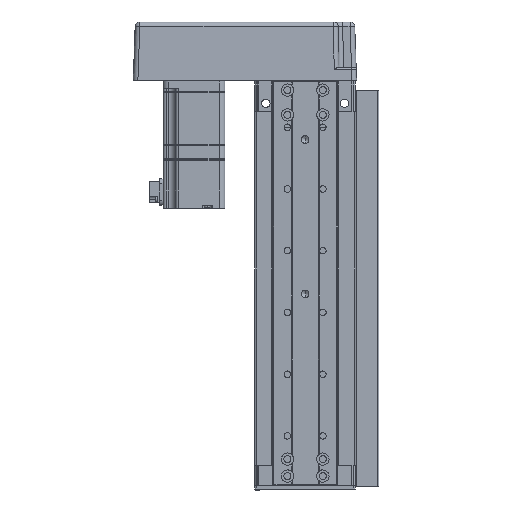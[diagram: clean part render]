
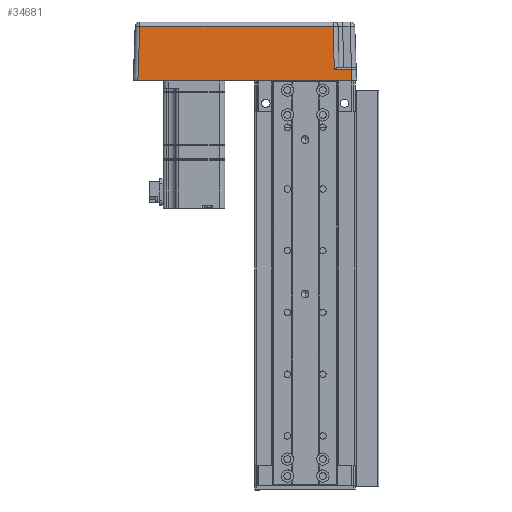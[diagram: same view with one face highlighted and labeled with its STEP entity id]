
A CAD part, front view. The second image highlights one B-rep face of the part: STEP entity #34681.
In plain terms, the highlighted planar face has unit normal (0, -0.999, 0.035).
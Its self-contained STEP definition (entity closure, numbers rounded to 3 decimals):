
#3238 = CARTESIAN_POINT ( 'NONE',  ( -69.347, -92.16, 0. ) ) ;
#3348 = DIRECTION ( 'NONE',  ( 1., 0., 0. ) ) ;
#9726 = VECTOR ( 'NONE', #11734, 1000. ) ;
#9775 = LINE ( 'NONE', #10902, #9791 ) ;
#9791 = VECTOR ( 'NONE', #10881, 1000. ) ;
#9809 = LINE ( 'NONE', #11720, #9726 ) ;
#9836 = LINE ( 'NONE', #10994, #9850 ) ;
#9850 = VECTOR ( 'NONE', #11002, 1000. ) ;
#10881 = DIRECTION ( 'NONE',  ( -0.035, -0.035, -0.999 ) ) ;
#10902 = CARTESIAN_POINT ( 'NONE',  ( -68.115, -90.928, 35.28 ) ) ;
#10994 = CARTESIAN_POINT ( 'NONE',  ( 57.821, -91.896, 7.573 ) ) ;
#11002 = DIRECTION ( 'NONE',  ( -0.017, 0.035, 0.999 ) ) ;
#11019 = CARTESIAN_POINT ( 'NONE',  ( 57.821, -91.896, 7.573 ) ) ;
#11027 = CARTESIAN_POINT ( 'NONE',  ( 61.575, -91.896, 7.573 ) ) ;
#11032 = CARTESIAN_POINT ( 'NONE',  ( 65.329, -91.896, 7.573 ) ) ;
#11034 = CARTESIAN_POINT ( 'NONE',  ( 69.171, -91.984, 5.048 ) ) ;
#11062 = CARTESIAN_POINT ( 'NONE',  ( 69.082, -91.896, 7.573 ) ) ;
#11064 = CARTESIAN_POINT ( 'NONE',  ( 69.082, -91.896, 7.573 ) ) ;
#11068 = CARTESIAN_POINT ( 'NONE',  ( 69.259, -92.072, 2.524 ) ) ;
#11074 = CARTESIAN_POINT ( 'NONE',  ( 69.347, -92.16, 0. ) ) ;
#11720 = CARTESIAN_POINT ( 'NONE',  ( -68.115, -90.928, 35.28 ) ) ;
#11734 = DIRECTION ( 'NONE',  ( 1., 0., 0. ) ) ;
#18125 = FACE_OUTER_BOUND ( 'NONE', #42515, .T. ) ;
#20658 = AXIS2_PLACEMENT_3D ( 'NONE', #23422, #23412, #23502 ) ;
#23308 = PLANE ( 'NONE',  #20658 ) ;
#23412 = DIRECTION ( 'NONE',  ( 0., -0.999, 0.035 ) ) ;
#23422 = CARTESIAN_POINT ( 'NONE',  ( -75.455, -92.16, 0. ) ) ;
#23502 = DIRECTION ( 'NONE',  ( -1., 0., 0. ) ) ;
#26152 = CARTESIAN_POINT ( 'NONE',  ( 69.347, -92.16, 0. ) ) ;
#26188 = CARTESIAN_POINT ( 'NONE',  ( -69.347, -92.16, 0. ) ) ;
#26288 = CARTESIAN_POINT ( 'NONE',  ( 57.821, -91.896, 7.573 ) ) ;
#26290 = CARTESIAN_POINT ( 'NONE',  ( 69.082, -91.896, 7.573 ) ) ;
#26297 = CARTESIAN_POINT ( 'NONE',  ( 57.337, -90.928, 35.28 ) ) ;
#26319 = CARTESIAN_POINT ( 'NONE',  ( -68.115, -90.928, 35.28 ) ) ;
#32411 = EDGE_CURVE ( 'NONE', #50628, #50611, #56048, .T. ) ;
#34681 = ADVANCED_FACE ( 'NONE', ( #18125 ), #23308, .T. ) ;
#41745 = EDGE_CURVE ( 'NONE', #50768, #50801, #9809, .T. ) ;
#41790 = EDGE_CURVE ( 'NONE', #50768, #50628, #9775, .T. ) ;
#41805 = EDGE_CURVE ( 'NONE', #50746, #50801, #9836, .T. ) ;
#41812 = EDGE_CURVE ( 'NONE', #50746, #50757, #49950, .T. ) ;
#41813 = EDGE_CURVE ( 'NONE', #50757, #50611, #49955, .T. ) ;
#42515 = EDGE_LOOP ( 'NONE', ( #48073, #48091, #48089, #48108, #48048, #48049 ) ) ;
#48048 = ORIENTED_EDGE ( 'NONE', *, *, #41813, .F. ) ;
#48049 = ORIENTED_EDGE ( 'NONE', *, *, #41812, .F. ) ;
#48073 = ORIENTED_EDGE ( 'NONE', *, *, #41805, .T. ) ;
#48089 = ORIENTED_EDGE ( 'NONE', *, *, #41790, .T. ) ;
#48091 = ORIENTED_EDGE ( 'NONE', *, *, #41745, .F. ) ;
#48108 = ORIENTED_EDGE ( 'NONE', *, *, #32411, .T. ) ;
#49950 = B_SPLINE_CURVE_WITH_KNOTS ( 'NONE', 3,
 ( #11019, #11027, #11032, #11062 ),
 .UNSPECIFIED., .F., .F.,
 ( 4, 4 ),
 ( 0., 1. ),
 .UNSPECIFIED. ) ;
#49955 = B_SPLINE_CURVE_WITH_KNOTS ( 'NONE', 3,
 ( #11064, #11034, #11068, #11074 ),
 .UNSPECIFIED., .F., .F.,
 ( 4, 4 ),
 ( 0., 1. ),
 .UNSPECIFIED. ) ;
#50611 = VERTEX_POINT ( 'NONE', #26152 ) ;
#50628 = VERTEX_POINT ( 'NONE', #26188 ) ;
#50746 = VERTEX_POINT ( 'NONE', #26288 ) ;
#50757 = VERTEX_POINT ( 'NONE', #26290 ) ;
#50768 = VERTEX_POINT ( 'NONE', #26319 ) ;
#50801 = VERTEX_POINT ( 'NONE', #26297 ) ;
#56024 = VECTOR ( 'NONE', #3348, 1000. ) ;
#56048 = LINE ( 'NONE', #3238, #56024 ) ;
